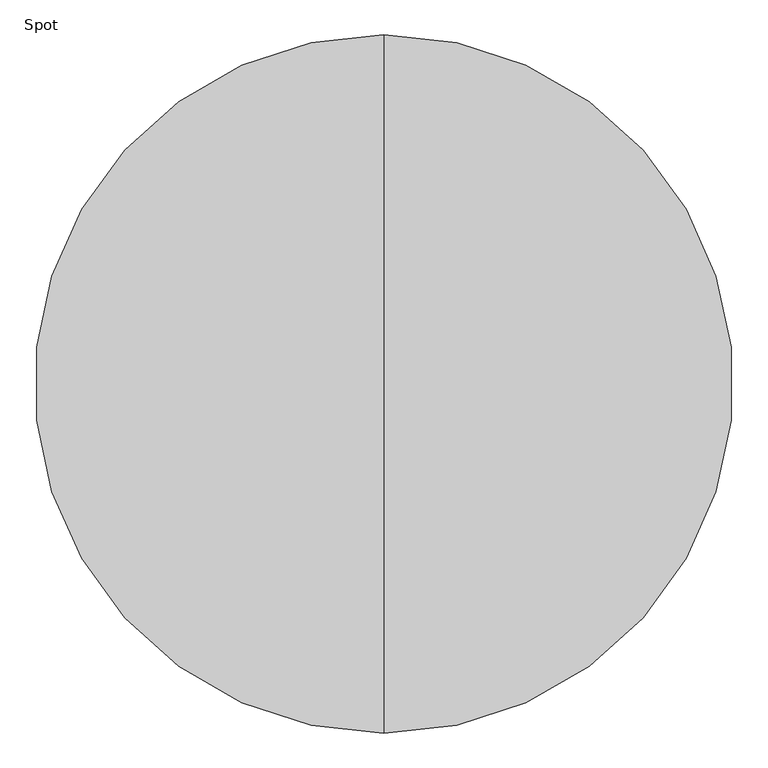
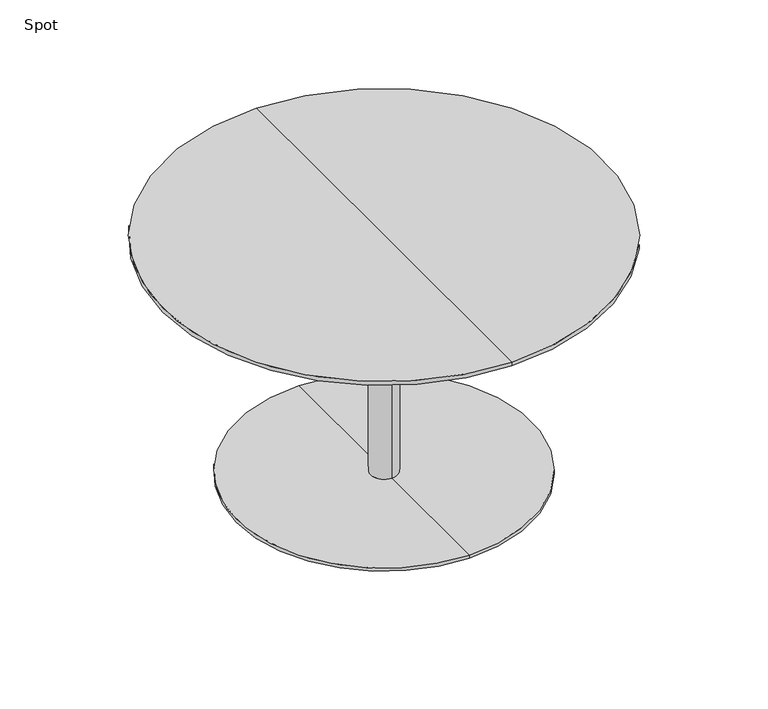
"""IFC4 building model written with IfcOpenShell, lengths in millimetres: furniture geometry, Spot : ø105x60."""

from ifc_helpers import new_model, si_unit, frame, origin, place, context, project, spatial, polyline, circle_curve, source, transform, mapped, element, save
from ifc_brep_helpers import plane_surface, cylinder_surface, revolved_surface, advanced_brep


def spot_2f719e33(model_context):
    return source(origin(), model_context, "Body", "AdvancedBrep", [
        advanced_brep(
        [(0.0, 525.0, 600.0), (0.0, -525.0, 600.0), (0.0, 0.0, 600.0), (0.0, 525.0, 590.25), (0.0, -525.0, 590.25), (0.0, 479.2823776, 578.0), (0.0, -479.2823776, 578.0), (0.0, 0.0, 578.0)],
        [
            (0, 1, circle_curve(frame((0.0, 0.0, 600.0), z_axis=(0.0, 0.0, 1.0), x_axis=(0.0, -1.0, 0.0)), 525.0)),
            (1, 2),
            (2, 0),
            (1, 0, circle_curve(frame((0.0, 0.0, 600.0), z_axis=(0.0, 0.0, 1.0), x_axis=(0.0, -1.0, 0.0)), 525.0)),
            (3, 4, circle_curve(frame((0.0, 0.0, 590.25), z_axis=(0.0, 0.0, 1.0), x_axis=(0.0, -1.0, 0.0)), 525.0)),
            (4, 1),
            (0, 3),
            (4, 3, circle_curve(frame((0.0, 0.0, 590.25), z_axis=(0.0, 0.0, 1.0), x_axis=(0.0, -1.0, 0.0)), 525.0)),
            (5, 6, circle_curve(frame((0.0, 0.0, 578.0), z_axis=(0.0, 0.0, 1.0), x_axis=(0.0, -1.0, 0.0)), 479.2823776)),
            (6, 4),
            (3, 5),
            (6, 5, circle_curve(frame((0.0, 0.0, 578.0), z_axis=(0.0, 0.0, 1.0), x_axis=(0.0, -1.0, 0.0)), 479.2823776)),
            (7, 6),
            (5, 7),
        ],
        [
            plane_surface(frame((0.0, 0.0, 600.0), z_axis=(0.0, 0.0, 1.0), x_axis=(0.0, -1.0, 0.0))),
            cylinder_surface(frame((0.0, 0.0, 680.0), z_axis=(0.0, 0.0, -1.0), x_axis=(0.0, -1.0, 0.0)), 525.0),
            revolved_surface(polyline([(0.0, -525.0, 590.25), (0.0, -479.2823776, 578.0)]), (0.0, 0.0, 680.0), (0.0, 0.0, -1.0)),
            plane_surface(frame((0.0, 0.0, 578.0), z_axis=(0.0, 0.0, -1.0), x_axis=(0.0, -1.0, 0.0))),
        ],
        [
            (0, [[1, 2, 3]]),
            (0, [[4, -3, -2]]),
            (1, [[5, 6, -1, 7]]),
            (1, [[8, -7, -4, -6]]),
            (2, [[9, 10, -5, 11]]),
            (2, [[12, -11, -8, -10]]),
            (3, [[13, -9, 14]]),
            (3, [[-14, -12, -13]]),
        ],
    ),
        advanced_brep(
        [(0.0, 32.0, 10.0), (0.0, -32.0, 10.0), (0.0, -32.0, 547.406916), (0.0, 32.0, 547.406916), (0.0, 350.0, 10.0), (0.0, -350.0, 10.0), (0.0, 350.0, 2.0), (0.0, -350.0, 2.0), (0.0, 0.0, 2.0), (0.0, 150.0, 578.0), (0.0, -150.0, 578.0), (0.0, 0.0, 578.0), (0.0, 150.0, 566.7213673), (0.0, -150.0, 566.7213673)],
        [
            (0, 1, circle_curve(frame((0.0, 0.0, 10.0), z_axis=(0.0, 0.0, 1.0), x_axis=(0.0, -1.0, 0.0)), 32.0)),
            (1, 2),
            (2, 3, circle_curve(frame((0.0, 0.0, 547.406916), z_axis=(0.0, 0.0, -1.0), x_axis=(0.0, -1.0, 0.0)), 32.0)),
            (3, 0),
            (1, 0, circle_curve(frame((0.0, 0.0, 10.0), z_axis=(0.0, 0.0, 1.0), x_axis=(0.0, -1.0, 0.0)), 32.0)),
            (3, 2, circle_curve(frame((0.0, 0.0, 547.406916), z_axis=(0.0, 0.0, -1.0), x_axis=(0.0, -1.0, 0.0)), 32.0)),
            (4, 5, circle_curve(frame((0.0, 0.0, 10.0), z_axis=(0.0, 0.0, 1.0), x_axis=(0.0, -1.0, 0.0)), 350.0)),
            (5, 1),
            (0, 4),
            (5, 4, circle_curve(frame((0.0, 0.0, 10.0), z_axis=(0.0, 0.0, 1.0), x_axis=(0.0, -1.0, 0.0)), 350.0)),
            (6, 7, circle_curve(frame((0.0, 0.0, 2.0), z_axis=(0.0, 0.0, 1.0), x_axis=(0.0, -1.0, 0.0)), 350.0)),
            (7, 5),
            (4, 6),
            (7, 6, circle_curve(frame((0.0, 0.0, 2.0), z_axis=(0.0, 0.0, 1.0), x_axis=(0.0, -1.0, 0.0)), 350.0)),
            (8, 7),
            (6, 8),
            (9, 10, circle_curve(frame((0.0, 0.0, 578.0), z_axis=(0.0, 0.0, 1.0), x_axis=(0.0, -1.0, 0.0)), 150.0)),
            (10, 11),
            (11, 9),
            (10, 9, circle_curve(frame((0.0, 0.0, 578.0), z_axis=(0.0, 0.0, 1.0), x_axis=(0.0, -1.0, 0.0)), 150.0)),
            (12, 13, circle_curve(frame((0.0, 0.0, 566.7213673), z_axis=(0.0, 0.0, 1.0), x_axis=(0.0, -1.0, 0.0)), 150.0)),
            (13, 10),
            (9, 12),
            (13, 12, circle_curve(frame((0.0, 0.0, 566.7213673), z_axis=(0.0, 0.0, 1.0), x_axis=(0.0, -1.0, 0.0)), 150.0)),
            (2, 13),
            (12, 3),
        ],
        [
            cylinder_surface(frame((0.0, 0.0, 940.0), z_axis=(0.0, 0.0, -1.0), x_axis=(0.0, -1.0, 0.0)), 32.0),
            plane_surface(frame((0.0, 0.0, 10.0), z_axis=(0.0, 0.0, 1.0), x_axis=(0.0, -1.0, 0.0))),
            cylinder_surface(frame((0.0, 0.0, 940.0), z_axis=(0.0, 0.0, -1.0), x_axis=(0.0, -1.0, 0.0)), 350.0),
            plane_surface(frame((0.0, 0.0, 2.0), z_axis=(0.0, 0.0, -1.0), x_axis=(0.0, -1.0, 0.0))),
            plane_surface(frame((0.0, 0.0, 578.0), z_axis=(0.0, 0.0, 1.0), x_axis=(0.0, -1.0, 0.0))),
            cylinder_surface(frame((0.0, 0.0, 940.0), z_axis=(0.0, 0.0, -1.0), x_axis=(0.0, -1.0, 0.0)), 150.0),
            revolved_surface(polyline([(0.0, -150.0, 566.7213673), (0.0, -32.0, 547.406916)]), (0.0, 0.0, 940.0), (0.0, 0.0, -1.0)),
        ],
        [
            (0, [[1, 2, 3, 4]]),
            (0, [[5, -4, 6, -2]]),
            (1, [[7, 8, -1, 9]]),
            (1, [[10, -9, -5, -8]]),
            (2, [[11, 12, -7, 13]]),
            (2, [[14, -13, -10, -12]]),
            (3, [[15, -11, 16]]),
            (3, [[-16, -14, -15]]),
            (4, [[17, 18, 19]]),
            (4, [[20, -19, -18]]),
            (5, [[21, 22, -17, 23]]),
            (5, [[24, -23, -20, -22]]),
            (6, [[-3, 25, -21, 26]]),
            (6, [[-6, -26, -24, -25]]),
        ],
    ),
    ])


if __name__ == "__main__":
    model = new_model("IFC4")
    model_context = context("Model", 3, world=origin())
    ifc_project = project(units=[si_unit("LENGTHUNIT", "METRE", prefix="MILLI")], contexts=[model_context])
    site = spatial("IfcSite", under=ifc_project)
    building = spatial("IfcBuilding", under=site)
    placement = place(None, origin())
    spot_shape = spot_2f719e33(model_context)
    element("IfcFurniture", 1, ObjectType="Spot : ø105x60", at=placement, inside=building, context=model_context, shape_type="MappedRepresentation", body=[
        mapped(spot_shape, transform((0.0, 0.0, 0.0), x_axis=(1.0, 0.0, 0.0), y_axis=(0.0, 1.0, 0.0), z_axis=(0.0, 0.0, 1.0))),
    ])
    save(model, "model.ifc")
